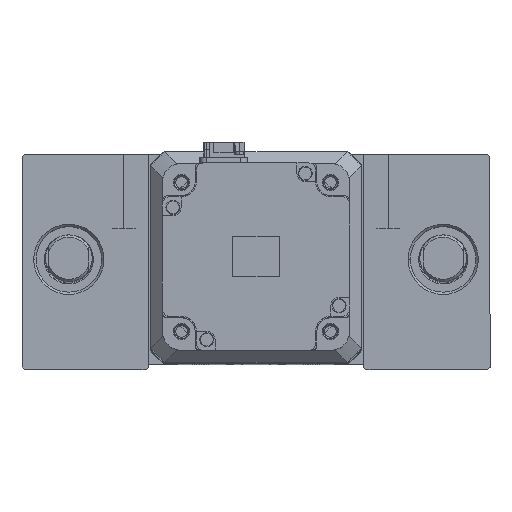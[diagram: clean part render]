
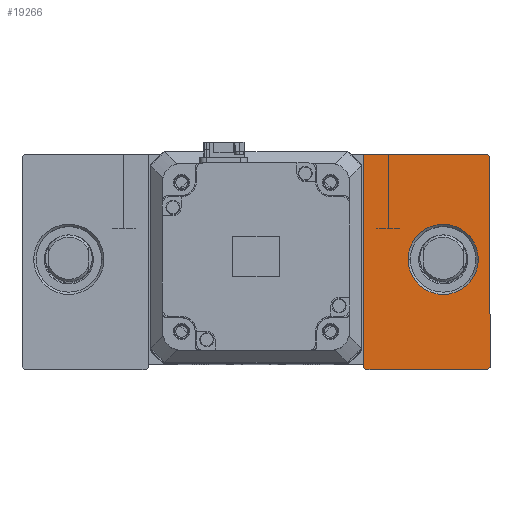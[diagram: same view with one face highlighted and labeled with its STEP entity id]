
A CAD part, top view. The second image highlights one B-rep face of the part: STEP entity #19266.
In plain terms, the highlighted planar face has unit normal (0, 0, 1).
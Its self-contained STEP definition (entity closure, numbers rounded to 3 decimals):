
#30 = DIRECTION ( 'NONE',  ( 0., 1., 0. ) ) ;
#1685 = EDGE_CURVE ( 'NONE', #54102, #16540, #51599, .T. ) ;
#2055 = EDGE_LOOP ( 'NONE', ( #46464, #16298 ) ) ;
#2369 = CARTESIAN_POINT ( 'NONE',  ( 80., 0., 35. ) ) ;
#2608 = EDGE_CURVE ( 'NONE', #28494, #28431, #28206, .T. ) ;
#3649 = DIRECTION ( 'NONE',  ( 1., 0., 0. ) ) ;
#4159 = CARTESIAN_POINT ( 'NONE',  ( 46., 45., 35. ) ) ;
#5044 = CARTESIAN_POINT ( 'NONE',  ( 100., -46., 35. ) ) ;
#5166 = VERTEX_POINT ( 'NONE', #28804 ) ;
#5603 = VECTOR ( 'NONE', #16284, 1000. ) ;
#6674 = DIRECTION ( 'NONE',  ( 1., 0., 0. ) ) ;
#6983 = VECTOR ( 'NONE', #30, 1000. ) ;
#7029 = EDGE_CURVE ( 'NONE', #16540, #28494, #23654, .T. ) ;
#7182 = VERTEX_POINT ( 'NONE', #13709 ) ;
#7410 = LINE ( 'NONE', #33132, #52794 ) ;
#7582 = DIRECTION ( 'NONE',  ( 0.707, 0.707, 0. ) ) ;
#11991 = CARTESIAN_POINT ( 'NONE',  ( 46., -46., 35. ) ) ;
#12863 = AXIS2_PLACEMENT_3D ( 'NONE', #21853, #51684, #26124 ) ;
#13709 = CARTESIAN_POINT ( 'NONE',  ( 95., 0., 35. ) ) ;
#14769 = CARTESIAN_POINT ( 'NONE',  ( 99., -47., 35. ) ) ;
#15138 = CARTESIAN_POINT ( 'NONE',  ( 99., 45., 35. ) ) ;
#15514 = DIRECTION ( 'NONE',  ( 0.707, -0.707, 0. ) ) ;
#16284 = DIRECTION ( 'NONE',  ( 1., 0., 0. ) ) ;
#16298 = ORIENTED_EDGE ( 'NONE', *, *, #32798, .T. ) ;
#16540 = VERTEX_POINT ( 'NONE', #15138 ) ;
#16986 = LINE ( 'NONE', #25563, #6983 ) ;
#17063 = FACE_OUTER_BOUND ( 'NONE', #20479, .T. ) ;
#18585 = DIRECTION ( 'NONE',  ( -0.707, 0.707, 0. ) ) ;
#18890 = VECTOR ( 'NONE', #18585, 1000. ) ;
#19266 = ADVANCED_FACE ( 'NONE', ( #37057, #17063 ), #20619, .T. ) ;
#19407 = CARTESIAN_POINT ( 'NONE',  ( 47., -47., 35. ) ) ;
#19614 = CARTESIAN_POINT ( 'NONE',  ( 0., 0., 35. ) ) ;
#20479 = EDGE_LOOP ( 'NONE', ( #25514, #24169, #30762, #52470, #31957, #28354, #43441 ) ) ;
#20619 = PLANE ( 'NONE',  #41236 ) ;
#21853 = CARTESIAN_POINT ( 'NONE',  ( 80., 0., 35. ) ) ;
#23654 = LINE ( 'NONE', #55155, #35031 ) ;
#24099 = EDGE_CURVE ( 'NONE', #28835, #26605, #52324, .T. ) ;
#24169 = ORIENTED_EDGE ( 'NONE', *, *, #49373, .T. ) ;
#24666 = CARTESIAN_POINT ( 'NONE',  ( 46., -47., 35. ) ) ;
#24892 = CARTESIAN_POINT ( 'NONE',  ( 0., 0., 35. ) ) ;
#25514 = ORIENTED_EDGE ( 'NONE', *, *, #2608, .T. ) ;
#25563 = CARTESIAN_POINT ( 'NONE',  ( 100., 45., 35. ) ) ;
#25992 = VECTOR ( 'NONE', #15514, 1000. ) ;
#26124 = DIRECTION ( 'NONE',  ( 1., 0., 0. ) ) ;
#26605 = VERTEX_POINT ( 'NONE', #14769 ) ;
#26896 = EDGE_CURVE ( 'NONE', #36691, #54102, #16986, .T. ) ;
#28206 = LINE ( 'NONE', #36474, #38224 ) ;
#28354 = ORIENTED_EDGE ( 'NONE', *, *, #1685, .T. ) ;
#28431 = VERTEX_POINT ( 'NONE', #11991 ) ;
#28494 = VERTEX_POINT ( 'NONE', #4159 ) ;
#28804 = CARTESIAN_POINT ( 'NONE',  ( 65., 0., 35. ) ) ;
#28835 = VERTEX_POINT ( 'NONE', #19407 ) ;
#29203 = DIRECTION ( 'NONE',  ( 0., 0., 1. ) ) ;
#29582 = DIRECTION ( 'NONE',  ( -1., 0., 0. ) ) ;
#30762 = ORIENTED_EDGE ( 'NONE', *, *, #24099, .T. ) ;
#31166 = EDGE_CURVE ( 'NONE', #7182, #5166, #43953, .T. ) ;
#31957 = ORIENTED_EDGE ( 'NONE', *, *, #26896, .T. ) ;
#32207 = DIRECTION ( 'NONE',  ( 0., 0., -1. ) ) ;
#32798 = EDGE_CURVE ( 'NONE', #5166, #7182, #37876, .T. ) ;
#33132 = CARTESIAN_POINT ( 'NONE',  ( 73., -73., 35. ) ) ;
#34114 = CARTESIAN_POINT ( 'NONE',  ( 100., 44., 35. ) ) ;
#35031 = VECTOR ( 'NONE', #29582, 1000. ) ;
#36474 = CARTESIAN_POINT ( 'NONE',  ( 46., 45., 35. ) ) ;
#36691 = VERTEX_POINT ( 'NONE', #5044 ) ;
#37057 = FACE_BOUND ( 'NONE', #2055, .T. ) ;
#37334 = LINE ( 'NONE', #19614, #25992 ) ;
#37876 = CIRCLE ( 'NONE', #12863, 15. ) ;
#38224 = VECTOR ( 'NONE', #40764, 1000. ) ;
#40764 = DIRECTION ( 'NONE',  ( 0., -1., 0. ) ) ;
#41236 = AXIS2_PLACEMENT_3D ( 'NONE', #24892, #29203, #3649 ) ;
#42423 = AXIS2_PLACEMENT_3D ( 'NONE', #2369, #32207, #6674 ) ;
#43441 = ORIENTED_EDGE ( 'NONE', *, *, #7029, .T. ) ;
#43953 = CIRCLE ( 'NONE', #42423, 15. ) ;
#46464 = ORIENTED_EDGE ( 'NONE', *, *, #31166, .T. ) ;
#48422 = CARTESIAN_POINT ( 'NONE',  ( 72., 72., 35. ) ) ;
#49373 = EDGE_CURVE ( 'NONE', #28431, #28835, #37334, .T. ) ;
#51599 = LINE ( 'NONE', #48422, #18890 ) ;
#51684 = DIRECTION ( 'NONE',  ( 0., 0., -1. ) ) ;
#52158 = EDGE_CURVE ( 'NONE', #26605, #36691, #7410, .T. ) ;
#52324 = LINE ( 'NONE', #24666, #5603 ) ;
#52470 = ORIENTED_EDGE ( 'NONE', *, *, #52158, .T. ) ;
#52794 = VECTOR ( 'NONE', #7582, 1000. ) ;
#54102 = VERTEX_POINT ( 'NONE', #34114 ) ;
#55155 = CARTESIAN_POINT ( 'NONE',  ( 46., 45., 35. ) ) ;
